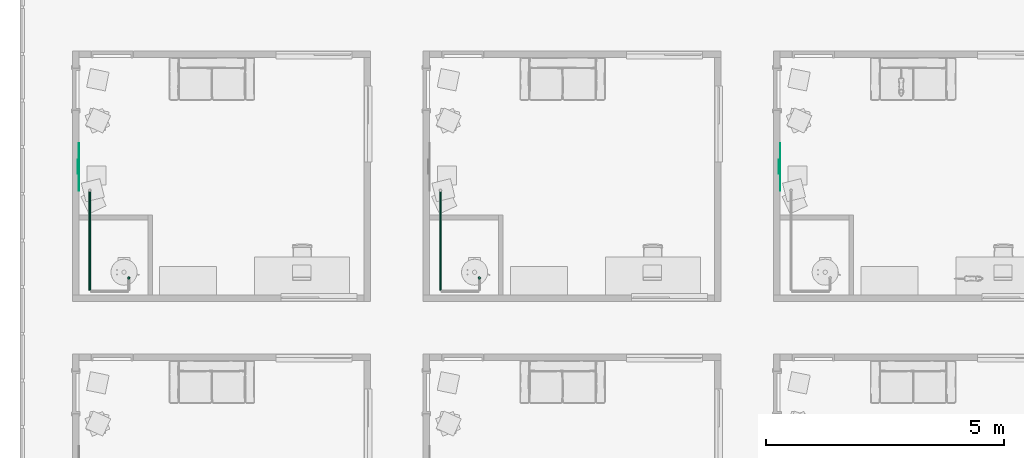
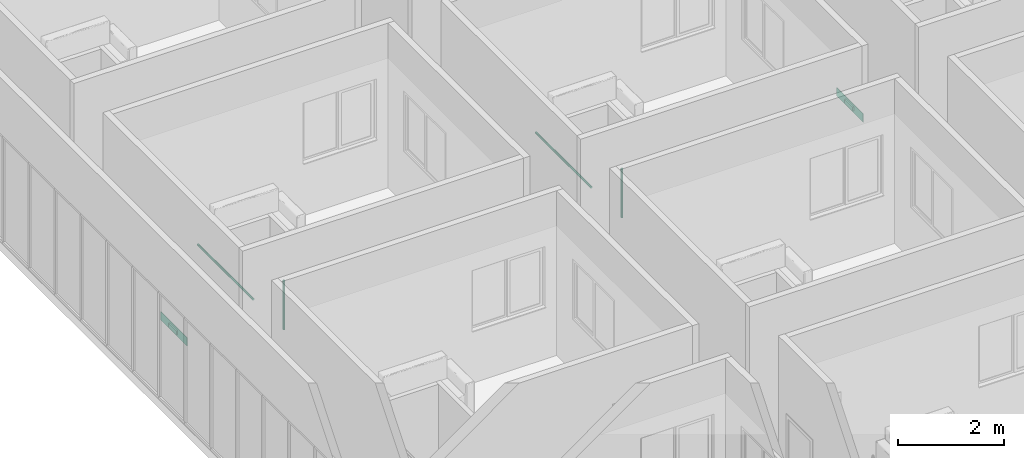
# One storey, part 27 of 71: 4 pipe segments, 2 air terminals.
"""IFC4 building model written with IfcOpenShell, lengths in centimetres."""

from ifc_helpers import new_model, entity, si_unit, converted_unit, derived_unit, direction, frame, origin, place, context, subcontext, project, spatial, arc, indexed_curve, outline, extrude, source, transform, mapped, material, constituent, constituent_set, type_object, type_shapes, element, save


model = new_model("IFC4")

# Units and contexts
model_context = context("Model", 3, precision=0.001, world=origin(), true_north=direction((6.123233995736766e-17, 1.0)))
body_context = subcontext(model_context, "Body", "Model", "MODEL_VIEW")
ifc_project = project(units=[si_unit("LENGTHUNIT", "METRE", prefix="CENTI"), si_unit("AREAUNIT", "SQUARE_METRE"), si_unit("VOLUMEUNIT", "CUBIC_METRE"), derived_unit("THERMALTRANSMITTANCEUNIT", [(si_unit("MASSUNIT", "GRAM", prefix="KILO"), 1), (si_unit("THERMODYNAMICTEMPERATUREUNIT", "KELVIN"), -1), (si_unit("TIMEUNIT", "SECOND"), -3)]), converted_unit("PLANEANGLEUNIT", "DEGREE", entity("IfcPlaneAngleMeasure", 0.017453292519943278), si_unit("PLANEANGLEUNIT", "RADIAN"), dimensions=[0, 0, 0, 0, 0, 0, 0]), derived_unit("MASSDENSITYUNIT", [(si_unit("MASSUNIT", "GRAM", prefix="KILO"), 1), (si_unit("LENGTHUNIT", "METRE"), -3)]), derived_unit("VAPORPERMEABILITYUNIT", [(si_unit("LENGTHUNIT", "METRE"), -1), (si_unit("TIMEUNIT", "SECOND"), 1)]), derived_unit("USERDEFINED", [(si_unit("MASSUNIT", "GRAM", prefix="KILO"), 1), (si_unit("TIMEUNIT", "SECOND"), -3), (si_unit("LENGTHUNIT", "METRE"), 3), (si_unit("ELECTRICCURRENTUNIT", "AMPERE"), -2)]), derived_unit("SPECIFICHEATCAPACITYUNIT", [(si_unit("THERMODYNAMICTEMPERATUREUNIT", "KELVIN"), -1), (si_unit("LENGTHUNIT", "METRE"), 2), (si_unit("TIMEUNIT", "SECOND"), -2)]), derived_unit("THERMALCONDUCTANCEUNIT", [(si_unit("MASSUNIT", "GRAM", prefix="KILO"), 1), (si_unit("THERMODYNAMICTEMPERATUREUNIT", "KELVIN"), -1), (si_unit("TIMEUNIT", "SECOND"), -3), (si_unit("LENGTHUNIT", "METRE"), 1)]), si_unit("PRESSUREUNIT", "PASCAL"), derived_unit("MODULUSOFELASTICITYUNIT", [(si_unit("MASSUNIT", "GRAM", prefix="KILO"), 1), (si_unit("LENGTHUNIT", "METRE"), -1), (si_unit("TIMEUNIT", "SECOND"), -2)]), derived_unit("THERMALEXPANSIONCOEFFICIENTUNIT", [(si_unit("THERMODYNAMICTEMPERATUREUNIT", "KELVIN"), -1)])], contexts=[model_context])

# Site, building, storey, space
site_placement = place(None, origin())
site = spatial("IfcSite", under=ifc_project, at=site_placement, Name="Default", CompositionType="ELEMENT")
building_placement = place(site_placement, origin())
building = spatial("IfcBuilding", under=site, at=building_placement, Name="IDS Escape Game Building", CompositionType="ELEMENT")
storey_placement = place(building_placement, frame((0.0, 0.0, 1200.0)))
storey = spatial("IfcBuildingStorey", under=building, at=storey_placement, Name="03_Third Floor", CompositionType="ELEMENT", Elevation=1200.0)
space_1_placement = place(storey_placement, origin())
space_1 = spatial("IfcSpace", under=storey, at=space_1_placement, Name="127", CompositionType="ELEMENT", PredefinedType="NOTDEFINED")

# Air terminal
ifc_material_1 = material(Name="TB_LVC_referentievlak_00_gen_BERSnl", Category="BE Default")
ifc_constituent_1 = constituent(ifc_material_1, Name="TB_LVC_referentievlak_00_gen_BERSnl", Category="BE Default", fraction=0.00014157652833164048)
ifc_material_2 = material(Name="ARC_FME.h2_staal_00_gen_BERSnl", Category="h - metaal")
ifc_constituent_2 = constituent(ifc_material_2, Name="ARC_FME.h2_staal_00_gen_BERSnl", Category="h - metaal", fraction=0.9998584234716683)
ifc_constituent_set_1 = constituent_set(constituents=[ifc_constituent_1, ifc_constituent_2])
ifc_constituent_3 = constituent(ifc_material_1, Name="BE Referentievlak", Category="BE Default", fraction=0.00014157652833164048)
ifc_constituent_4 = constituent(ifc_material_2, Name="Terminals", Category="h - metaal", fraction=0.9998584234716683)
ifc_constituent_set_2 = constituent_set(constituents=[ifc_constituent_3, ifc_constituent_4])
air_terminal_type = type_object("IfcAirTerminalType", Name="TB_57_AIR_FB_aanzuigrooster - 1 rechthoekige aansluiting - calculated flow_gen_BERSnl:Air Terminal - Exhaust", PredefinedType="GRILLE", material=ifc_constituent_set_2)
shared_shape = source(origin(), body_context, "Body", "SweptSolid", [
    extrude(outline(indexed_curve([(-0.5, -2.0290176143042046e-15), (6.8507733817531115e-16, -0.5000000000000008), (0.5, 2.0290176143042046e-15), (-5.361679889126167e-16, 0.49999999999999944)], segments=[arc(1, 2, 3), arc(3, 4, 1)], self_intersect=False)), frame((0.0, 0.0, 0.0), z_axis=(1.7453292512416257e-05, 0.0, 1.0), x_axis=(0.0, 1.0, 0.0)), (0.0, 0.0, 1.0), 0.09999999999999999),
    extrude(outline(indexed_curve([(-14.900000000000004, -4.9), (14.900000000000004, -4.9), (14.900000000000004, 4.9), (-14.900000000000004, 4.9), (-14.900000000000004, -4.9)], self_intersect=False)), frame((-4.886921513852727e-05, 0.0, -2.7999999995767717)), (0.0, 0.0, 1.0), 2.7999999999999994),
    extrude(outline(indexed_curve([(-50.0, -10.0), (50.0, -10.0), (50.0, 10.0), (-50.0, 10.0), (-50.0, -10.0)], self_intersect=False)), frame((0.0, 0.0, 0.0), z_axis=(0.0, 0.0, 1.0), x_axis=(-1.0, 0.0, 0.0)), (0.0, 0.0, 1.0), 0.6999999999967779),
])
type_shapes(air_terminal_type, [shared_shape])
air_terminal_1_placement = place(space_1_placement, frame((7.0, 2197.0, 24.0), z_axis=(1.0, 0.0, 0.0), x_axis=(0.0, 1.0, 0.0)))
element("IfcAirTerminal", 1, at=air_terminal_1_placement, inside=space_1, type_object=air_terminal_type, material=ifc_constituent_set_1, Name="TB_57_AIR_FB_aanzuigrooster - 1 rechthoekige aansluiting - calculated flow_gen_BERSnl:Air Terminal - Exhaust", ObjectType="TB_57_AIR_FB_aanzuigrooster - 1 rechthoekige aansluiting - calculated flow_gen_BERSnl:Air Terminal - Exhaust", PredefinedType="GRILLE", context=body_context, shape_type="MappedRepresentation", body=[
    mapped(shared_shape, transform((0.0, 0.0, 0.0), scale=1.0)),
])

# Space
space_2_placement = place(storey_placement, origin())
space_2 = spatial("IfcSpace", under=storey, at=space_2_placement, Name="129", CompositionType="ELEMENT", PredefinedType="NOTDEFINED")

# Air terminal
ifc_constituent_5 = constituent(ifc_material_1, Name="TB_LVC_referentievlak_00_gen_BERSnl", Category="BE Default", fraction=0.00014157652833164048)
ifc_constituent_6 = constituent(ifc_material_2, Name="ARC_FME.h2_staal_00_gen_BERSnl", Category="h - metaal", fraction=0.9998584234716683)
ifc_constituent_set_3 = constituent_set(constituents=[ifc_constituent_5, ifc_constituent_6])
air_terminal_2_placement = place(space_2_placement, frame((1483.0, 2197.0, 24.0), z_axis=(1.0, 0.0, 0.0), x_axis=(0.0, 1.0, 0.0)))
element("IfcAirTerminal", 2, at=air_terminal_2_placement, inside=space_2, type_object=air_terminal_type, material=ifc_constituent_set_3, Name="TB_57_AIR_FB_aanzuigrooster - 1 rechthoekige aansluiting - calculated flow_gen_BERSnl:Air Terminal - Exhaust", ObjectType="TB_57_AIR_FB_aanzuigrooster - 1 rechthoekige aansluiting - calculated flow_gen_BERSnl:Air Terminal - Exhaust", PredefinedType="GRILLE", context=body_context, shape_type="MappedRepresentation", body=[
    mapped(shared_shape, transform((0.0, 0.0, 0.0), scale=1.0)),
])

# Pipe segments
pipe_segment_type = type_object("IfcPipeSegmentType", Name="Pipe Types:Piping Aluminum", PredefinedType="NOTDEFINED")
pipe_segment_1_placement = place(storey_placement, origin())
element("IfcPipeSegment", 3, at=pipe_segment_1_placement, inside=storey, type_object=pipe_segment_type, Name="Pipe Types:Piping Aluminum", ObjectType="Pipe Types:Piping Aluminum", PredefinedType="NOTDEFINED", context=body_context, shape_type="SweptSolid", body=[
    extrude(outline(indexed_curve([(2.412999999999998, -4.331468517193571e-13), (1.7062486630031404, 1.7062486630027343), (-1.3535839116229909e-14, 2.412999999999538), (-1.7062486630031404, 1.7062486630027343), (-2.412999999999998, -4.331468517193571e-13), (-1.706248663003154, -1.7062486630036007), (-1.3535839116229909e-14, -2.4130000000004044), (1.7062486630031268, -1.7062486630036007)], segments=[arc(1, 2, 3), arc(3, 4, 5), arc(5, 6, 7), arc(7, 8, 1)], self_intersect=False)), frame((112.15000000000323, 1962.9000000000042, 128.0), z_axis=(0.0, 0.0, 1.0), x_axis=(-1.0, 0.0, 0.0)), (0.0, 0.0, 1.0), 112.90000000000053),
])
pipe_segment_2_placement = place(storey_placement, origin())
element("IfcPipeSegment", 4, at=pipe_segment_2_placement, inside=storey, type_object=pipe_segment_type, Name="Pipe Types:Piping Aluminum", ObjectType="Pipe Types:Piping Aluminum", PredefinedType="NOTDEFINED", context=body_context, shape_type="SweptSolid", body=[
    extrude(outline(indexed_curve([(2.4130000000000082, 0.0), (1.7062486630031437, 1.7062486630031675), (-3.383959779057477e-15, 2.412999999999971), (-1.7062486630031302, 1.7062486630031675), (-2.412999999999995, 0.0), (-1.7062486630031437, -1.7062486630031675), (-6.767919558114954e-15, -2.412999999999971), (1.706248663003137, -1.7062486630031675)], segments=[arc(1, 2, 3), arc(3, 4, 5), arc(5, 6, 7), arc(7, 8, 1)], self_intersect=False)), frame((30.046716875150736, 1936.364827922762, 242.0), z_axis=(0.0, 1.0, 0.0), x_axis=(1.0, 0.0, 0.0)), (0.0, 0.0, 1.0), 208.80000000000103),
])
pipe_segment_3_placement = place(storey_placement, origin())
element("IfcPipeSegment", 5, at=pipe_segment_3_placement, inside=storey, type_object=pipe_segment_type, Name="Pipe Types:Piping Aluminum", ObjectType="Pipe Types:Piping Aluminum", PredefinedType="NOTDEFINED", context=body_context, shape_type="SweptSolid", body=[
    extrude(outline(indexed_curve([(2.412999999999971, 0.0), (1.7062486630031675, 1.7062486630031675), (0.0, 2.412999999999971), (-1.7062486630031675, 1.7062486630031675), (-2.412999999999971, 0.0), (-1.7062486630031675, -1.7062486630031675), (0.0, -2.412999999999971), (1.7062486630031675, -1.7062486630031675)], segments=[arc(1, 2, 3), arc(3, 4, 5), arc(5, 6, 7), arc(7, 8, 1)], self_intersect=False)), frame((850.1500000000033, 1962.900000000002, 128.0), z_axis=(0.0, 0.0, 1.0), x_axis=(-1.0, 0.0, 0.0)), (0.0, 0.0, 1.0), 112.90000000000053),
])
pipe_segment_4_placement = place(storey_placement, origin())
element("IfcPipeSegment", 6, at=pipe_segment_4_placement, inside=storey, type_object=pipe_segment_type, Name="Pipe Types:Piping Aluminum", ObjectType="Pipe Types:Piping Aluminum", PredefinedType="NOTDEFINED", context=body_context, shape_type="SweptSolid", body=[
    extrude(outline(indexed_curve([(2.412999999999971, 0.0), (1.7062486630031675, 1.7062486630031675), (0.0, 2.412999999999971), (-1.7062486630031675, 1.7062486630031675), (-2.412999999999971, 0.0), (-1.7062486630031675, -1.7062486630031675), (0.0, -2.412999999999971), (1.7062486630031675, -1.7062486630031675)], segments=[arc(1, 2, 3), arc(3, 4, 5), arc(5, 6, 7), arc(7, 8, 1)], self_intersect=False)), frame((768.0467168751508, 1936.3648279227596, 242.0), z_axis=(0.0, 1.0, 0.0), x_axis=(1.0, 0.0, 0.0)), (0.0, 0.0, 1.0), 208.80000000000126),
])

save(model, "model.ifc")
